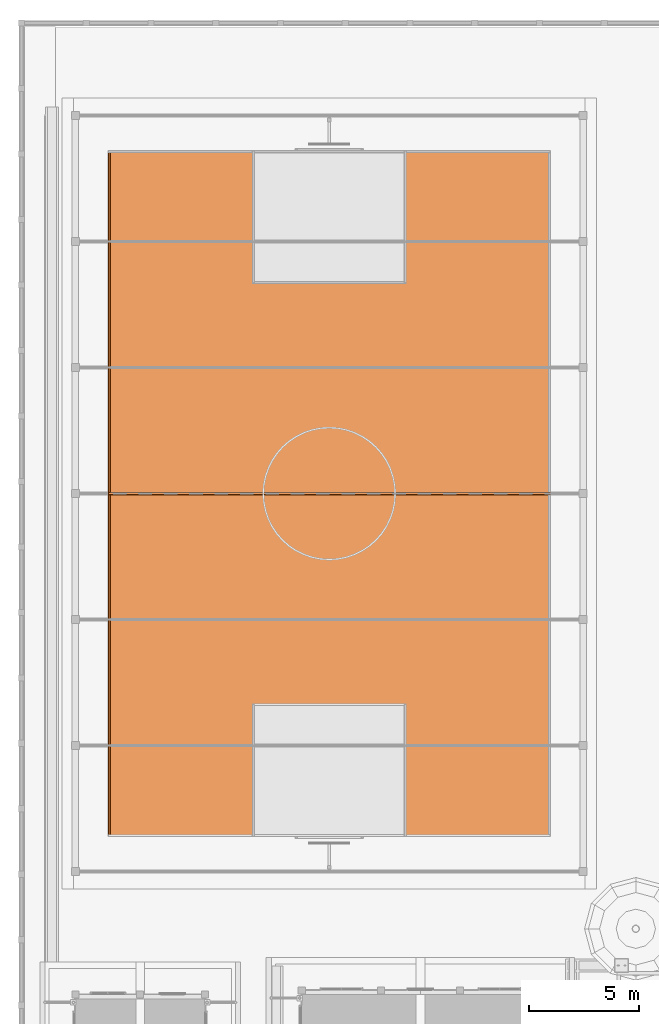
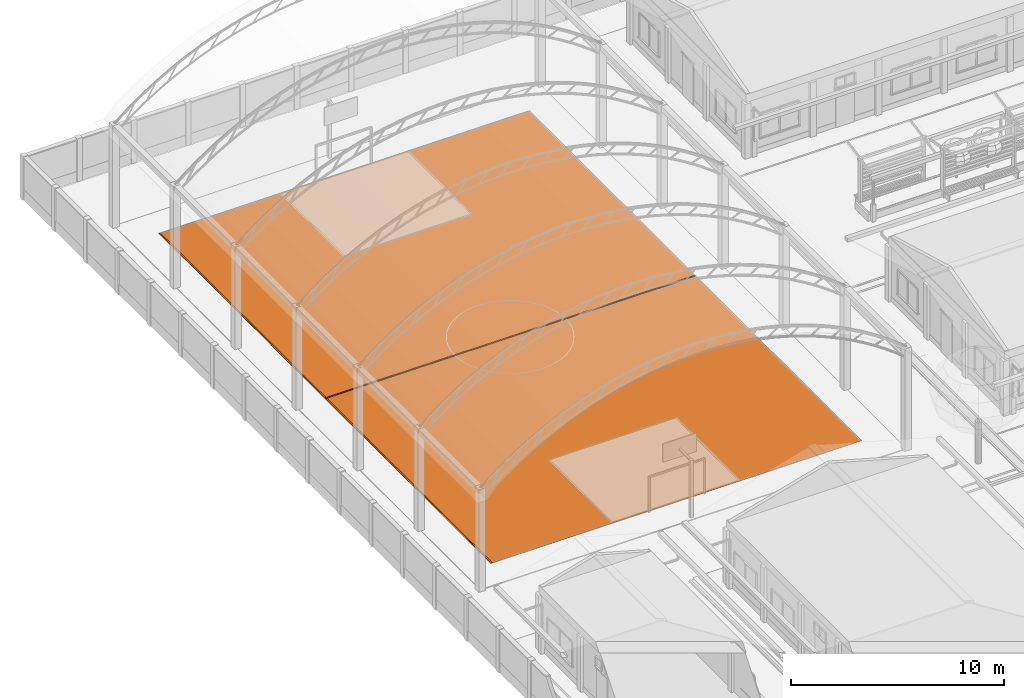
# One storey, part 170 of 177: 3 proxies.
"""IFC4 building model written with IfcOpenShell, lengths in metres."""

from ifc_helpers import new_model, si_unit, origin, origin_with_axes, place, context, subcontext, project, spatial, triangles, element, save


model = new_model("IFC4")

# Units and contexts
model_context = context("Model", 3, precision=1e-05, world=origin_with_axes())
body_context = subcontext(model_context, "Body", "Model", "MODEL_VIEW")
ifc_project = project(units=[si_unit("LENGTHUNIT", "METRE"), si_unit("AREAUNIT", "SQUARE_METRE"), si_unit("VOLUMEUNIT", "CUBIC_METRE"), si_unit("PLANEANGLEUNIT", "RADIAN")], contexts=[model_context])

# Site, building, storey
site_placement = place(None, origin_with_axes())
site = spatial("IfcSite", under=ifc_project, at=site_placement, Name="Predio Los Mangos - Morales, San Martín", CompositionType="ELEMENT")
building_placement = place(site_placement, origin())
building = spatial("IfcBuilding", under=site, at=building_placement, Name="Hogar de Refugio Temporal", CompositionType="ELEMENT")
storey_placement = place(building_placement, origin())
storey = spatial("IfcBuildingStorey", under=building, at=storey_placement, Name="NIVEL 1 (NPT +0.00)", CompositionType="ELEMENT", Elevation=0.0)

# Proxies
proxy_1_placement = place(storey_placement, origin())
element("IfcBuildingElementProxy", 1, at=proxy_1_placement, inside=storey, Name="cancha", ObjectType="Losa deportiva y vía", PredefinedType="NOTDEFINED", context=body_context, shape_type="Tessellation", body=[
    triangles([(5.0, 94.2, 0.12), (25.1, 94.2, 0.12), (25.1, 125.4, 0.12), (5.0, 125.4, 0.12), (5.0, 94.2, 0.125), (25.1, 94.2, 0.125), (25.1, 125.4, 0.125), (5.0, 125.4, 0.125)], [[1, 4, 3], [1, 3, 2], [5, 6, 7], [5, 7, 8], [1, 2, 6], [1, 6, 5], [2, 3, 7], [2, 7, 6], [3, 4, 8], [3, 8, 7], [4, 1, 5], [4, 5, 8]]),
])
proxy_2_placement = place(storey_placement, origin())
element("IfcBuildingElementProxy", 2, at=proxy_2_placement, inside=storey, Name="linea_cancha", ObjectType="Losa deportiva y vía", PredefinedType="NOTDEFINED", context=body_context, shape_type="Tessellation", body=[
    triangles([(5.0, 94.2, 0.125), (5.08, 94.2, 0.125), (5.08, 125.4, 0.125), (5.0, 125.4, 0.125), (5.0, 94.2, 0.127), (5.08, 94.2, 0.127), (5.08, 125.4, 0.127), (5.0, 125.4, 0.127)], [[1, 4, 3], [1, 3, 2], [5, 6, 7], [5, 7, 8], [1, 2, 6], [1, 6, 5], [2, 3, 7], [2, 7, 6], [3, 4, 8], [3, 8, 7], [4, 1, 5], [4, 5, 8]]),
])
proxy_3_placement = place(storey_placement, origin())
element("IfcBuildingElementProxy", 3, at=proxy_3_placement, inside=storey, Name="linea_cancha", ObjectType="Losa deportiva y vía", PredefinedType="NOTDEFINED", context=body_context, shape_type="Tessellation", body=[
    triangles([(5.0, 109.76, 0.125), (25.1, 109.76, 0.125), (25.1, 109.84, 0.125), (5.0, 109.84, 0.125), (5.0, 109.76, 0.127), (25.1, 109.76, 0.127), (25.1, 109.84, 0.127), (5.0, 109.84, 0.127)], [[1, 4, 3], [1, 3, 2], [5, 6, 7], [5, 7, 8], [1, 2, 6], [1, 6, 5], [2, 3, 7], [2, 7, 6], [3, 4, 8], [3, 8, 7], [4, 1, 5], [4, 5, 8]]),
])

save(model, "model.ifc")
